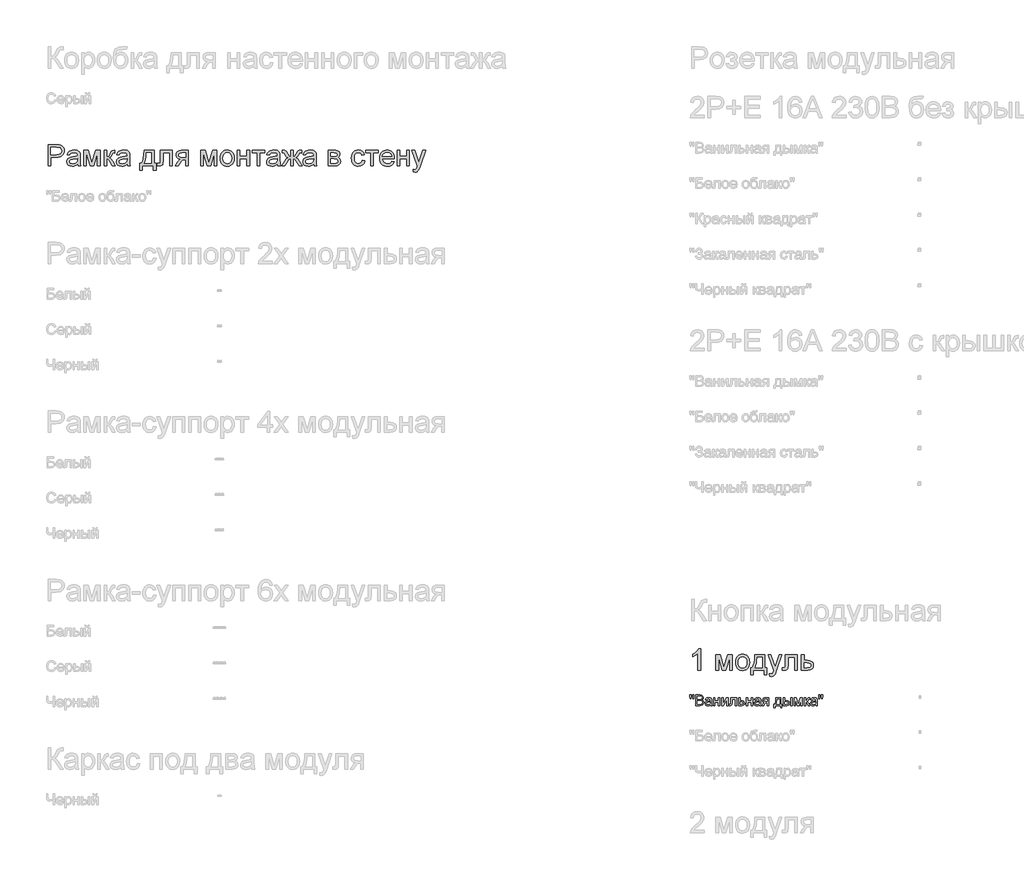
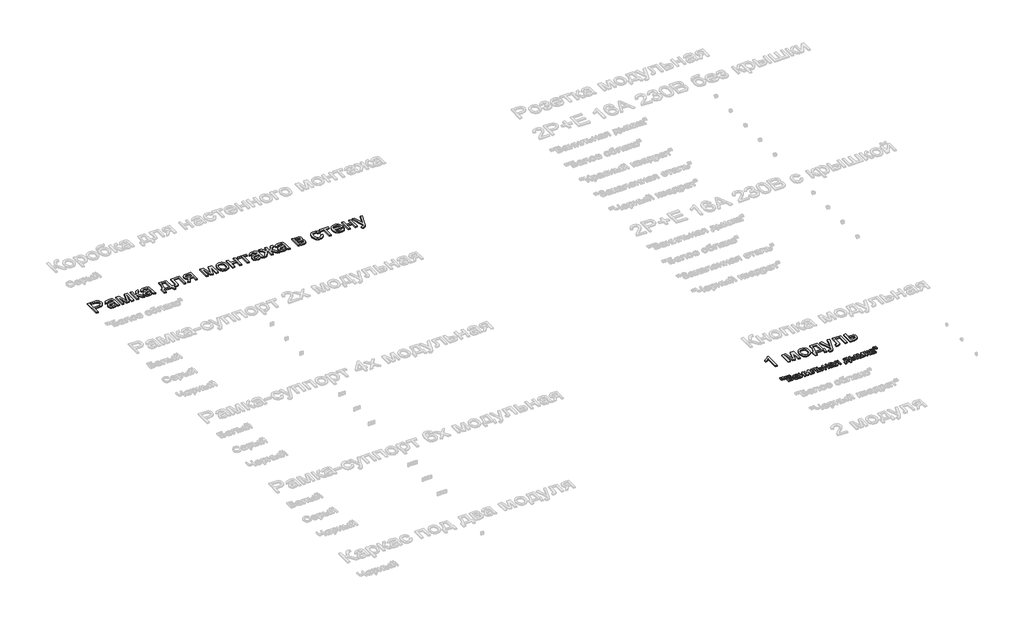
# One storey, part 45 of 168: 3 proxies.
"""IFC4 building model written with IfcOpenShell, lengths in millimetres."""

from ifc_helpers import new_model, si_unit, origin, origin_with_axes, place, context, project, spatial, polyline, outline, extrude, element, save

model = new_model("IFC4")

# Units and contexts
model_context = context("Model", 3, world=origin())
ifc_project = project(units=[si_unit("LENGTHUNIT", "METRE", prefix="MILLI")], contexts=[model_context])

# Site, building, storey
site = spatial("IfcSite", under=ifc_project)
building = spatial("IfcBuilding", under=site)
storey = spatial("IfcBuildingStorey", under=building, Name="Этаж 01", Elevation=0.0)

# Proxies
placement = place(None, origin())
element("IfcBuildingElementProxy", 1, Name="300 мм Arial 2", ObjectType="300 мм Arial 2", at=placement, inside=storey, context=model_context, shape_type="SweptSolid", body=[
    extrude(outline(polyline([(32899.0945017, -32350.0174816), (32899.0945017, -32048.6485512), (33010.7834754, -32048.6485512), (33055.8122316, -32051.5180308), (33075.8893915, -32056.8799108), (33092.4164901, -32065.6079112), (33105.7246213, -32078.0975049), (33116.1448788, -32094.7441652), (33122.8771193, -32114.3798667), (33125.1211995, -32135.8365841), (33123.6059855, -32154.3364499), (33119.0603436, -32171.3555907), (33111.4842738, -32186.8940065), (33100.877776, -32200.9516972), (33086.3165468, -32212.6043594), (33066.8762826, -32220.9276895), (33042.5569835, -32225.9216876), (33013.3586494, -32227.5863536), (32936.765618, -32227.5863536), (32936.765618, -32350.0174816), (32899.0945017, -32350.0174816)]), holes=[polyline([(32936.765618, -32189.9152373), (33015.5659413, -32189.9152373), (33048.9696265, -32186.4571466), (33071.0425462, -32176.0828743), (33083.3481989, -32159.436214), (33087.4500832, -32137.1609592), (33085.0312591, -32120.2383875), (33077.7747867, -32105.964566), (33066.581977, -32095.2224118), (33052.3541408, -32088.8948415), (33014.6830245, -32086.3196675), (32936.765618, -32086.3196675), (32936.765618, -32189.9152373)])]), origin_with_axes(), (0.0, 0.0, 1.0), 20.0),
    extrude(outline(polyline([(33313.476781, -32321.7641444), (33295.4781544, -32337.1967941), (33276.9460989, -32347.2951549), (33257.4575502, -32352.8685671), (33236.589444, -32354.7263712), (33205.1079423, -32350.2566049), (33181.8853914, -32336.8473062), (33167.5655847, -32316.4850378), (33162.7923158, -32291.1563624), (33164.5949376, -32275.5397717), (33170.0028029, -32261.3579208), (33178.3445271, -32249.217815), (33188.9487257, -32239.7264595), (33215.3258647, -32227.3656245), (33247.9202095, -32221.7002417), (33286.4374544, -32215.7405534), (33313.2560518, -32208.7507955), (33313.476781, -32200.363086), (33310.883213, -32183.5508788), (33303.1025088, -32172.5512072), (33285.7016904, -32164.3842269), (33261.4582669, -32161.6619001), (33239.0174652, -32163.4737189), (33223.3456922, -32168.9091754), (33212.6587202, -32178.9615509), (33205.1723216, -32194.6241269), (33167.5012053, -32189.9152373), (33174.0403078, -32169.3138456), (33183.7983777, -32153.1270378), (33197.685923, -32140.7478087), (33216.6134517, -32131.5691529), (33239.7624262, -32125.8853761), (33266.3143092, -32123.9907838), (33291.7809404, -32125.6646469), (33311.9684648, -32130.6862361), (33327.1895824, -32138.2370141), (33337.7569927, -32147.4984433), (33344.7651447, -32158.9487704), (33349.3084874, -32173.066242), (33351.1478973, -32206.0284687), (33351.1478973, -32252.8966349), (33353.0608837, -32318.3428419), (33360.5656764, -32350.0174816), (33322.8945601, -32350.0174816), (33313.476781, -32321.7641444)]), holes=[polyline([(33313.476781, -32246.4219118), (33252.7026754, -32257.9734064), (33220.2922716, -32264.0802476), (33205.61378, -32274.0130614), (33200.4634321, -32288.507612), (33203.2685323, -32299.7096188), (33211.683833, -32308.8882746), (33225.525393, -32315.0135098), (33244.6092715, -32317.0552549), (33264.8427813, -32314.8019777), (33282.7218462, -32308.042146), (33297.2163968, -32298.081741), (33307.2963635, -32286.2267437), (33311.7661297, -32274.0130614), (33313.2560518, -32257.0904897), (33313.476781, -32246.4219118)])]), origin_with_axes(), (0.0, 0.0, 1.0), 20.0),
    extrude(outline(polyline([(33402.9456823, -32128.6996733), (33467.7664898, -32128.6996733), (33517.7248647, -32305.8716422), (33571.5827888, -32128.6996733), (33633.6812696, -32128.6996733), (33633.6812696, -32350.0174816), (33596.0101533, -32350.0174816), (33596.0101533, -32171.8154432), (33541.8579236, -32350.0174816), (33492.4145835, -32350.0174816), (33440.6167986, -32163.2805809), (33440.6167986, -32350.0174816), (33402.9456823, -32350.0174816), (33402.9456823, -32128.6996733)])), origin_with_axes(), (0.0, 0.0, 1.0), 20.0),
    extrude(outline(polyline([(33690.1879441, -32128.6996733), (33727.8590604, -32128.6996733), (33727.8590604, -32222.8774641), (33743.1813455, -32221.1852069), (33753.0957653, -32216.1084354), (33761.8697508, -32202.8646836), (33773.7707334, -32176.6714855), (33790.9508226, -32142.642401), (33806.1075608, -32131.5691529), (33833.6619222, -32128.6996733), (33840.8724093, -32128.6996733), (33840.8724093, -32166.5915188), (33830.7188662, -32166.3707897), (33812.3247665, -32170.3439152), (33799.3753203, -32195.1391617), (33784.1817939, -32221.9577591), (33762.8814263, -32235.0911463), (33774.8191971, -32240.3932456), (33786.6466032, -32249.7512439), (33809.9703217, -32280.6349374), (33850.2901884, -32350.0174816), (33807.4687241, -32350.0174816), (33767.9581979, -32282.1064653), (33748.0925701, -32253.3748815), (33738.8035497, -32248.1601542), (33727.8590604, -32246.4219118), (33727.8590604, -32350.0174816), (33690.1879441, -32350.0174816), (33690.1879441, -32128.6996733)])), origin_with_axes(), (0.0, 0.0, 1.0), 20.0),
    extrude(outline(polyline([(34015.1013222, -32321.7641444), (33997.1026956, -32337.1967941), (33978.5706401, -32347.2951549), (33959.0820914, -32352.8685671), (33938.2139852, -32354.7263712), (33906.7324835, -32350.2566049), (33883.5099326, -32336.8473062), (33869.1901259, -32316.4850378), (33864.416857, -32291.1563624), (33866.2194788, -32275.5397717), (33871.6273441, -32261.3579208), (33879.9690683, -32249.217815), (33890.5732669, -32239.7264595), (33916.9504059, -32227.3656245), (33949.5447507, -32221.7002417), (33988.0619956, -32215.7405534), (34014.880593, -32208.7507955), (34015.1013222, -32200.363086), (34012.5077542, -32183.5508788), (34004.72705, -32172.5512072), (33987.3262316, -32164.3842269), (33963.0828081, -32161.6619001), (33940.6420064, -32163.4737189), (33924.9702334, -32168.9091754), (33914.2832614, -32178.9615509), (33906.7968628, -32194.6241269), (33869.1257465, -32189.9152373), (33875.664849, -32169.3138456), (33885.4229189, -32153.1270378), (33899.3104642, -32140.7478087), (33918.2379929, -32131.5691529), (33941.3869674, -32125.8853761), (33967.9388504, -32123.9907838), (33993.4054816, -32125.6646469), (34013.593006, -32130.6862361), (34028.8141236, -32138.2370141), (34039.3815339, -32147.4984433), (34046.3896859, -32158.9487704), (34050.9330286, -32173.066242), (34052.7724385, -32206.0284687), (34052.7724385, -32252.8966349), (34054.6854249, -32318.3428419), (34062.1902176, -32350.0174816), (34024.5191013, -32350.0174816), (34015.1013222, -32321.7641444)]), holes=[polyline([(34015.1013222, -32246.4219118), (33954.3272166, -32257.9734064), (33921.9168128, -32264.0802476), (33907.2383212, -32274.0130614), (33902.0879733, -32288.507612), (33904.8930735, -32299.7096188), (33913.3083742, -32308.8882746), (33927.1499342, -32315.0135098), (33946.2338127, -32317.0552549), (33966.4673225, -32314.8019777), (33984.3463874, -32308.042146), (33998.840938, -32298.081741), (34008.9209047, -32286.2267437), (34013.3906709, -32274.0130614), (34014.880593, -32257.0904897), (34015.1013222, -32246.4219118)])]), origin_with_axes(), (0.0, 0.0, 1.0), 20.0),
    extrude(outline(polyline([(34255.2546887, -32128.6996733), (34396.5213748, -32128.6996733), (34396.5213748, -32312.3463653), (34424.7747121, -32312.3463653), (34424.7747121, -32411.2330456), (34387.1035957, -32411.2330456), (34387.1035957, -32350.0174816), (34231.710241, -32350.0174816), (34231.710241, -32411.2330456), (34194.0391247, -32411.2330456), (34194.0391247, -32312.3463653), (34217.5835724, -32312.3463653), (34234.6992822, -32281.4166866), (34246.6830382, -32240.4990117), (34253.5348404, -32189.5933406), (34255.2546887, -32128.6996733)]), holes=[polyline([(34288.2169154, -32166.3707897), (34285.1267067, -32212.4939948), (34279.3877476, -32252.1976591), (34271.0000381, -32285.4817826), (34259.9635782, -32312.3463653), (34358.8502585, -32312.3463653), (34358.8502585, -32166.3707897), (34288.2169154, -32166.3707897)])]), origin_with_axes(), (0.0, 0.0, 1.0), 20.0),
    extrude(outline(polyline([(34485.9902761, -32128.6996733), (34655.5102994, -32128.6996733), (34655.5102994, -32349.7967524), (34617.8391831, -32349.7967524), (34617.8391831, -32166.3707897), (34523.6613924, -32166.3707897), (34523.6613924, -32271.9529223), (34521.1230066, -32320.6604984), (34516.3681318, -32331.6877612), (34507.180279, -32341.225102), (34493.2375514, -32347.8193867), (34474.2180522, -32350.0174816), (34443.6102702, -32348.1044953), (34443.6102702, -32312.3463653), (34460.4592656, -32312.3463653), (34477.492202, -32310.0287088), (34484.2980189, -32302.6710689), (34485.9902761, -32269.8192067), (34485.9902761, -32128.6996733)])), origin_with_axes(), (0.0, 0.0, 1.0), 20.0),
    extrude(outline(polyline([(34881.5369973, -32128.6996733), (34881.5369973, -32350.0174816), (34843.865881, -32350.0174816), (34843.865881, -32265.25747), (34823.3380656, -32265.25747), (34795.379034, -32270.0399359), (34784.2138154, -32280.4693905), (34769.1122595, -32302.1928223), (34739.0930887, -32350.0174816), (34695.5358605, -32350.0174816), (34733.3541296, -32289.5376816), (34750.0559722, -32267.8326439), (34765.4334396, -32258.1941356), (34739.6816999, -32250.3030669), (34721.5819058, -32235.3118755), (34710.8765397, -32215.3726714), (34707.3080844, -32192.6375641), (34712.1825208, -32166.8490362), (34726.8058301, -32146.4315855), (34750.6629775, -32133.1326514), (34783.2389282, -32128.6996733), (34881.5369973, -32128.6996733)]), holes=[polyline([(34843.865881, -32166.3707897), (34794.2018116, -32166.3707897), (34768.5512395, -32168.5504905), (34753.9923095, -32175.0895929), (34747.2324779, -32184.5533573), (34744.9792007, -32195.5070437), (34748.2993357, -32209.8636385), (34758.2597407, -32219.8240436), (34776.6630375, -32225.6457761), (34805.3118479, -32227.5863536), (34843.865881, -32227.5863536), (34843.865881, -32166.3707897)])]), origin_with_axes(), (0.0, 0.0, 1.0), 20.0),
    extrude(outline(polyline([(35055.7659102, -32128.6996733), (35120.5867177, -32128.6996733), (35170.5450927, -32305.8716422), (35224.4030168, -32128.6996733), (35286.5014976, -32128.6996733), (35286.5014976, -32350.0174816), (35248.8303813, -32350.0174816), (35248.8303813, -32171.8154432), (35194.6781516, -32350.0174816), (35145.2348114, -32350.0174816), (35093.4370265, -32163.2805809), (35093.4370265, -32350.0174816), (35055.7659102, -32350.0174816), (35055.7659102, -32128.6996733)])), origin_with_axes(), (0.0, 0.0, 1.0), 20.0),
    extrude(outline(polyline([(35333.5903929, -32239.3585775), (35335.6275395, -32210.6959715), (35341.7389791, -32185.9972941), (35351.9247119, -32165.2625451), (35366.1847377, -32148.4917247), (35380.5413326, -32137.7725631), (35396.3878495, -32130.116019), (35413.7242885, -32125.5220926), (35432.5506496, -32123.9907838), (35453.3336831, -32125.8554857), (35472.1255553, -32131.4495913), (35488.9262661, -32140.7731006), (35503.7358157, -32153.8260136), (35515.8230385, -32170.166872), (35524.4567691, -32189.3542173), (35529.6370074, -32211.3880495), (35531.3637535, -32236.2683687), (35528.310333, -32274.3257611), (35519.1500713, -32303.2964683), (35504.149683, -32324.9923089), (35483.5758824, -32341.225102), (35459.1393208, -32351.3510539), (35432.5506496, -32354.7263712), (35411.4641135, -32352.8685671), (35392.4974974, -32347.2951549), (35375.6508013, -32338.0061345), (35360.9240252, -32325.001506), (35348.9655611, -32308.5019985), (35340.423801, -32288.7283412), (35335.298745, -32265.6805342), (35333.5903929, -32239.3585775)]), holes=[polyline([(35371.2615092, -32239.2850011), (35375.6209109, -32273.378465), (35388.6991158, -32297.6678737), (35408.3808026, -32312.2084096), (35432.5506496, -32317.0552549), (35456.6101321, -32312.1808184), (35476.2550307, -32297.5575091), (35489.3332356, -32272.9462037), (35493.6926372, -32238.1077787), (35489.3056444, -32205.0075962), (35476.1446661, -32181.0492813), (35456.4721764, -32166.5087454), (35432.5506496, -32161.6619001), (35408.3808026, -32166.4903513), (35388.6991158, -32180.9757049), (35375.6209109, -32205.2099313), (35371.2615092, -32239.2850011)])]), origin_with_axes(), (0.0, 0.0, 1.0), 20.0),
    extrude(outline(polyline([(35573.7437594, -32128.6996733), (35611.4148757, -32128.6996733), (35611.4148757, -32213.459685), (35710.301556, -32213.459685), (35710.301556, -32128.6996733), (35747.9726723, -32128.6996733), (35747.9726723, -32350.0174816), (35710.301556, -32350.0174816), (35710.301556, -32251.1308013), (35611.4148757, -32251.1308013), (35611.4148757, -32350.0174816), (35573.7437594, -32350.0174816), (35573.7437594, -32128.6996733)])), origin_with_axes(), (0.0, 0.0, 1.0), 20.0),
    extrude(outline(polyline([(35785.6437886, -32128.6996733), (35964.5815911, -32128.6996733), (35964.5815911, -32166.3707897), (35893.948248, -32166.3707897), (35893.948248, -32350.0174816), (35856.2771317, -32350.0174816), (35856.2771317, -32166.3707897), (35785.6437886, -32166.3707897), (35785.6437886, -32128.6996733)])), origin_with_axes(), (0.0, 0.0, 1.0), 20.0),
    extrude(outline(polyline([(36138.810504, -32321.7641444), (36120.8118774, -32337.1967941), (36102.2798219, -32347.2951549), (36082.7912732, -32352.8685671), (36061.923167, -32354.7263712), (36030.4416653, -32350.2566049), (36007.2191143, -32336.8473062), (35992.8993076, -32316.4850378), (35988.1260388, -32291.1563624), (35989.9286605, -32275.5397717), (35995.3365259, -32261.3579208), (36003.6782501, -32249.217815), (36014.2824486, -32239.7264595), (36040.6595877, -32227.3656245), (36073.2539324, -32221.7002417), (36111.7711773, -32215.7405534), (36138.5897748, -32208.7507955), (36138.810504, -32200.363086), (36136.2169359, -32183.5508788), (36128.4362317, -32172.5512072), (36111.0354133, -32164.3842269), (36086.7919899, -32161.6619001), (36064.3511882, -32163.4737189), (36048.6794152, -32168.9091754), (36037.9924432, -32178.9615509), (36030.5060446, -32194.6241269), (35992.8349283, -32189.9152373), (35999.3740308, -32169.3138456), (36009.1321007, -32153.1270378), (36023.019646, -32140.7478087), (36041.9471747, -32131.5691529), (36065.0961492, -32125.8853761), (36091.6480322, -32123.9907838), (36117.1146633, -32125.6646469), (36137.3021878, -32130.6862361), (36152.5233054, -32138.2370141), (36163.0907157, -32147.4984433), (36170.0988677, -32158.9487704), (36174.6422103, -32173.066242), (36176.4816203, -32206.0284687), (36176.4816203, -32252.8966349), (36178.3946067, -32318.3428419), (36185.8993994, -32350.0174816), (36148.2282831, -32350.0174816), (36138.810504, -32321.7641444)]), holes=[polyline([(36138.810504, -32246.4219118), (36078.0363984, -32257.9734064), (36045.6259946, -32264.0802476), (36030.947503, -32274.0130614), (36025.7971551, -32288.507612), (36028.6022553, -32299.7096188), (36037.0175559, -32308.8882746), (36050.859116, -32315.0135098), (36069.9429945, -32317.0552549), (36090.1765042, -32314.8019777), (36108.0555692, -32308.042146), (36122.5501198, -32298.081741), (36132.6300865, -32286.2267437), (36137.0998527, -32274.0130614), (36138.5897748, -32257.0904897), (36138.810504, -32246.4219118)])]), origin_with_axes(), (0.0, 0.0, 1.0), 20.0),
    extrude(outline(polyline([(36364.8372018, -32128.6996733), (36364.8372018, -32222.8774641), (36378.1269389, -32220.9368866), (36386.7997569, -32215.115154), (36407.5850897, -32174.8320755), (36420.55293, -32149.7241294), (36432.3803361, -32136.204466), (36446.746128, -32130.5758715), (36467.6234313, -32128.6996733), (36482.5594403, -32128.6996733), (36482.5594403, -32166.5915188), (36472.185168, -32166.3707897), (36452.7609987, -32170.2703388), (36439.2965176, -32194.6977033), (36423.6615328, -32221.4795125), (36401.3310957, -32235.0911463), (36413.7241205, -32240.3932456), (36425.9607953, -32249.7512439), (36449.9650955, -32280.6349374), (36491.9772194, -32350.0174816), (36448.7878731, -32350.0174816), (36407.4379369, -32281.5914305), (36396.1347626, -32263.6295921), (36386.3582985, -32253.1541523), (36376.4714699, -32248.1049719), (36364.8372018, -32246.4219118), (36364.8372018, -32350.0174816), (36327.1660855, -32350.0174816), (36327.1660855, -32246.4219118), (36315.6237879, -32248.0681837), (36305.7185652, -32253.0069995), (36295.8685248, -32263.4088629), (36284.4917741, -32281.4442777), (36243.1418378, -32350.0174816), (36200.026068, -32350.0174816), (36241.891039, -32280.6349374), (36266.0792802, -32249.7512439), (36278.3803344, -32240.3932456), (36290.8193444, -32235.0911463), (36276.4351584, -32227.8806592), (36267.1277439, -32220.0815609), (36246.8206578, -32181.4539515), (36236.8878439, -32168.7252344), (36220.6274597, -32166.1500605), (36209.4438471, -32166.3707897), (36209.4438471, -32128.6996733), (36215.1092298, -32128.6996733), (36248.1450329, -32131.0541181), (36265.2883339, -32141.0605084), (36284.4917741, -32174.8320755), (36305.0563776, -32214.8576366), (36313.7291956, -32220.8725072), (36327.1660855, -32222.8774641), (36327.1660855, -32128.6996733), (36364.8372018, -32128.6996733)])), origin_with_axes(), (0.0, 0.0, 1.0), 20.0),
    extrude(outline(polyline([(36652.0794637, -32321.7641444), (36634.080837, -32337.1967941), (36615.5487815, -32347.2951549), (36596.0602328, -32352.8685671), (36575.1921267, -32354.7263712), (36543.7106249, -32350.2566049), (36520.488074, -32336.8473062), (36506.1682673, -32316.4850378), (36501.3949984, -32291.1563624), (36503.1976202, -32275.5397717), (36508.6054855, -32261.3579208), (36516.9472098, -32249.217815), (36527.5514083, -32239.7264595), (36553.9285473, -32227.3656245), (36586.5228921, -32221.7002417), (36625.040137, -32215.7405534), (36651.8587345, -32208.7507955), (36652.0794637, -32200.363086), (36649.4858956, -32183.5508788), (36641.7051914, -32172.5512072), (36624.304373, -32164.3842269), (36600.0609495, -32161.6619001), (36577.6201478, -32163.4737189), (36561.9483748, -32168.9091754), (36551.2614029, -32178.9615509), (36543.7750043, -32194.6241269), (36506.103888, -32189.9152373), (36512.6429904, -32169.3138456), (36522.4010604, -32153.1270378), (36536.2886057, -32140.7478087), (36555.2161343, -32131.5691529), (36578.3651089, -32125.8853761), (36604.9169919, -32123.9907838), (36630.383623, -32125.6646469), (36650.5711475, -32130.6862361), (36665.792265, -32138.2370141), (36676.3596753, -32147.4984433), (36683.3678273, -32158.9487704), (36687.91117, -32173.066242), (36689.75058, -32206.0284687), (36689.75058, -32252.8966349), (36691.6635663, -32318.3428419), (36699.168359, -32350.0174816), (36661.4972427, -32350.0174816), (36652.0794637, -32321.7641444)]), holes=[polyline([(36652.0794637, -32246.4219118), (36591.3053581, -32257.9734064), (36558.8949543, -32264.0802476), (36544.2164627, -32274.0130614), (36539.0661147, -32288.507612), (36541.8712149, -32299.7096188), (36550.2865156, -32308.8882746), (36564.1280757, -32315.0135098), (36583.2119542, -32317.0552549), (36603.4454639, -32314.8019777), (36621.3245289, -32308.042146), (36635.8190795, -32298.081741), (36645.8990461, -32286.2267437), (36650.3688124, -32274.0130614), (36651.8587345, -32257.0904897), (36652.0794637, -32246.4219118)])]), origin_with_axes(), (0.0, 0.0, 1.0), 20.0),
    extrude(outline(polyline([(36859.2706033, -32128.6996733), (36942.2647814, -32128.6996733), (36968.9454231, -32129.9596692), (36987.7717843, -32133.7396567), (37001.6225414, -32140.8765674), (37013.3763711, -32152.2073328), (37021.4053957, -32166.9685979), (37024.0817372, -32184.3970074), (37022.4630564, -32198.4409026), (37017.6070141, -32210.5534173), (37009.4952161, -32220.7897338), (36998.1092683, -32229.2050344), (37012.0519959, -32237.0317239), (37023.4195496, -32249.6224852), (37030.9795246, -32265.9840369), (37033.4995163, -32285.1230977), (37027.1167636, -32313.8362874), (37011.9416313, -32334.0514031), (36987.9189371, -32346.025962), (36954.9934985, -32350.0174816), (36859.2706033, -32350.0174816), (36859.2706033, -32128.6996733)]), holes=[polyline([(36896.9417196, -32213.459685), (36934.1713776, -32213.459685), (36964.8895242, -32211.5466987), (36979.8255332, -32203.8947532), (36984.7643489, -32197.5671828), (36986.4106209, -32190.0623901), (36983.5227472, -32178.8235952), (36974.8591262, -32171.594714), (36959.2057473, -32167.6767707), (36935.3485999, -32166.3707897), (36896.9417196, -32166.3707897), (36896.9417196, -32213.459685)]), polyline([(36896.9417196, -32312.3463653), (36943.1476982, -32312.3463653), (36968.3292208, -32310.6449111), (36984.1297525, -32305.5405484), (36992.6094325, -32296.2607251), (36995.8283999, -32282.0328889), (36994.2189162, -32272.6059128), (36989.390465, -32263.8963066), (36981.9776428, -32257.0812926), (36972.6150461, -32253.3380933), (36939.4688783, -32251.1308013), (36896.9417196, -32251.1308013), (36896.9417196, -32312.3463653)])]), origin_with_axes(), (0.0, 0.0, 1.0), 20.0),
    extrude(outline(polyline([(37339.5773362, -32269.9663595), (37377.2484525, -32274.675249), (37366.7454216, -32308.1801017), (37347.0085525, -32333.4995801), (37319.8956495, -32349.4196734), (37287.2645165, -32354.7263712), (37266.1365937, -32352.8754649), (37247.1929702, -32347.322746), (37230.4336461, -32338.0682146), (37215.8586213, -32325.1118706), (37204.0611055, -32308.6974358), (37195.6343086, -32289.0686321), (37190.5782304, -32266.2254595), (37188.892871, -32240.1679179), (37191.7715476, -32206.6446711), (37200.4075775, -32177.5911905), (37214.9389163, -32154.1295163), (37235.5035198, -32137.3816884), (37260.1056282, -32127.33851), (37286.7494817, -32123.9907838), (37318.5804714, -32128.5893087), (37344.0287084, -32142.3848836), (37362.2848524, -32164.6417443), (37372.539563, -32194.6241269), (37334.8684467, -32199.3330164), (37328.0350386, -32182.8978883), (37317.3940519, -32171.1164674), (37303.5340978, -32164.0255419), (37287.0437873, -32161.6619001), (37262.6991963, -32166.3156074), (37243.3761945, -32180.2767291), (37230.7670391, -32204.2994234), (37226.5639873, -32239.1378483), (37230.6750686, -32274.4453228), (37243.0083125, -32298.5507905), (37261.9818264, -32312.4291388), (37286.0137177, -32317.0552549), (37305.5206605, -32314.1673812), (37321.5143303, -32305.5037602), (37333.1485984, -32290.8436627), (37339.5773362, -32269.9663595)])), origin_with_axes(), (0.0, 0.0, 1.0), 20.0),
    extrude(outline(polyline([(37391.3751212, -32128.6996733), (37570.3129236, -32128.6996733), (37570.3129236, -32166.3707897), (37499.6795805, -32166.3707897), (37499.6795805, -32350.0174816), (37462.0084642, -32350.0174816), (37462.0084642, -32166.3707897), (37391.3751212, -32166.3707897), (37391.3751212, -32128.6996733)])), origin_with_axes(), (0.0, 0.0, 1.0), 20.0),
    extrude(outline(polyline([(37758.2270468, -32284.0930281), (37795.1623991, -32288.8019176), (37781.8542679, -32316.6321906), (37760.6182797, -32337.4359174), (37731.9326811, -32350.4037577), (37696.2757188, -32354.7263712), (37672.9014165, -32352.8616693), (37652.074697, -32347.2675637), (37633.7955604, -32337.9440544), (37618.0640066, -32324.8911414), (37605.4134645, -32308.4721081), (37596.377363, -32289.050238), (37590.9557021, -32266.6255311), (37589.1484818, -32241.1979875), (37590.9740962, -32214.9082204), (37596.4509394, -32191.7362532), (37605.5790114, -32171.682086), (37618.3583122, -32154.7457186), (37634.0484793, -32141.2904346), (37651.9091501, -32131.6795175), (37671.9403248, -32125.9129672), (37694.1420032, -32123.9907838), (37715.628611, -32125.9083687), (37735.0596781, -32131.6611234), (37752.4352046, -32141.2490479), (37767.7551904, -32154.6721422), (37780.260879, -32171.5717214), (37789.1935137, -32191.5891004), (37794.5530945, -32214.7242794), (37796.3396215, -32240.9772583), (37796.1188923, -32251.1308013), (37626.8195981, -32251.1308013), (37633.3403064, -32279.3289563), (37648.4878476, -32300.0591067), (37670.3492352, -32312.8062178), (37697.0114828, -32317.0552549), (37717.0610515, -32315.0870862), (37733.9468351, -32309.1825802), (37747.6688335, -32298.9738548), (37758.2270468, -32284.0930281)]), holes=[polyline([(37626.8195981, -32213.459685), (37758.6685051, -32213.459685), (37753.5733395, -32193.5572691), (37743.5853433, -32179.3202359), (37721.6227882, -32166.0764841), (37693.9948504, -32161.6619001), (37668.6017957, -32165.1843702), (37647.6049308, -32175.7517805), (37633.0092126, -32192.2236969), (37626.8195981, -32213.459685)])]), origin_with_axes(), (0.0, 0.0, 1.0), 20.0),
    extrude(outline(polyline([(37834.0107378, -32128.6996733), (37871.6818541, -32128.6996733), (37871.6818541, -32213.459685), (37970.5685344, -32213.459685), (37970.5685344, -32128.6996733), (38008.2396507, -32128.6996733), (38008.2396507, -32350.0174816), (37970.5685344, -32350.0174816), (37970.5685344, -32251.1308013), (37871.6818541, -32251.1308013), (37871.6818541, -32350.0174816), (37834.0107378, -32350.0174816), (37834.0107378, -32128.6996733)])), origin_with_axes(), (0.0, 0.0, 1.0), 20.0),
    extrude(outline(polyline([(38064.7463251, -32434.7774933), (38060.0374356, -32398.5043286), (38079.1672993, -32401.8152666), (38097.0463643, -32397.6582), (38108.0092478, -32386.0699172), (38118.3099436, -32358.3316147), (38121.2529996, -32349.2081413), (38041.2018774, -32128.6996733), (38080.9331329, -32128.6996733), (38123.3867152, -32251.5722597), (38138.1755714, -32300.7212943), (38152.9644276, -32257.3112189), (38196.5952322, -32128.6996733), (38236.0321821, -32128.6996733), (38158.9976923, -32355.3149824), (38138.9849118, -32404.4640169), (38128.7393982, -32420.154184), (38117.1327212, -32431.025097), (38103.6498461, -32437.3710614), (38087.775738, -32439.4863829), (38064.7463251, -32434.7774933)])), origin_with_axes(), (0.0, 0.0, 1.0), 20.0),
])
element("IfcBuildingElementProxy", 2, Name="300 мм Arial 2", ObjectType="300 мм Arial 2", at=placement, inside=storey, context=model_context, shape_type="SweptSolid", body=[
    extrude(outline(polyline([(42126.2345192, -39482.6382173), (42088.5634029, -39482.6382173), (42088.5634029, -39247.7823516), (42052.8788494, -39273.2029974), (42013.2211703, -39292.2224966), (42013.2211703, -39256.6115194), (42042.8080797, -39240.5166822), (42068.4402577, -39221.3684243), (42088.6461763, -39201.0061559), (42101.9543075, -39181.2692868), (42126.2345192, -39181.2692868), (42126.2345192, -39482.6382173)])), origin_with_axes(), (0.0, 0.0, 1.0), 20.0),
    extrude(outline(polyline([(42342.843438, -39261.320409), (42407.6642455, -39261.320409), (42457.6226204, -39438.4923779), (42511.4805445, -39261.320409), (42573.5790253, -39261.320409), (42573.5790253, -39482.6382173), (42535.907909, -39482.6382173), (42535.907909, -39304.4361788), (42481.7556793, -39482.6382173), (42432.3123392, -39482.6382173), (42380.5145543, -39295.9013165), (42380.5145543, -39482.6382173), (42342.843438, -39482.6382173), (42342.843438, -39261.320409)])), origin_with_axes(), (0.0, 0.0, 1.0), 20.0),
    extrude(outline(polyline([(42620.6679207, -39371.9793131), (42622.7050673, -39343.3167072), (42628.8165069, -39318.6180297), (42639.0022396, -39297.8832808), (42653.2622655, -39281.1124603), (42667.6188603, -39270.3932987), (42683.4653773, -39262.7367547), (42700.8018163, -39258.1428282), (42719.6281774, -39256.6115194), (42740.4112109, -39258.4762213), (42759.203083, -39264.0703269), (42776.0037939, -39273.3938362), (42790.8133435, -39286.4467493), (42802.9005663, -39302.7876076), (42811.5342969, -39321.9749529), (42816.7145352, -39344.0087852), (42818.4412813, -39368.8891044), (42815.3878608, -39406.9464968), (42806.2275991, -39435.9172039), (42791.2272107, -39457.6130446), (42770.6534101, -39473.8458376), (42746.2168486, -39483.9717895), (42719.6281774, -39487.3471068), (42698.5416413, -39485.4893027), (42679.5750252, -39479.9158905), (42662.7283291, -39470.6268701), (42648.001553, -39457.6222416), (42636.0430888, -39441.1227341), (42627.5013288, -39421.3490769), (42622.3762727, -39398.3012699), (42620.6679207, -39371.9793131)]), holes=[polyline([(42658.339037, -39371.9057367), (42662.6984387, -39405.9992006), (42675.7766436, -39430.2886094), (42695.4583303, -39444.8291452), (42719.6281774, -39449.6759905), (42743.6876599, -39444.8015541), (42763.3325584, -39430.1782448), (42776.4107634, -39405.5669393), (42780.770165, -39370.7285143), (42776.3831722, -39337.6283318), (42763.2221938, -39313.6700169), (42743.5497041, -39299.129481), (42719.6281774, -39294.2826358), (42695.4583303, -39299.1110869), (42675.7766436, -39313.5964405), (42662.6984387, -39337.8306669), (42658.339037, -39371.9057367)])]), origin_with_axes(), (0.0, 0.0, 1.0), 20.0),
    extrude(outline(polyline([(42893.7835139, -39261.320409), (43035.0502001, -39261.320409), (43035.0502001, -39444.967101), (43063.3035373, -39444.967101), (43063.3035373, -39543.8537813), (43025.632421, -39543.8537813), (43025.632421, -39482.6382173), (42870.2390662, -39482.6382173), (42870.2390662, -39543.8537813), (42832.5679499, -39543.8537813), (42832.5679499, -39444.967101), (42856.1123976, -39444.967101), (42873.2281074, -39414.0374222), (42885.2118634, -39373.1197473), (42892.0636656, -39322.2140762), (42893.7835139, -39261.320409)]), holes=[polyline([(42926.7457407, -39298.9915253), (42923.6555319, -39345.1147304), (42917.9165728, -39384.8183948), (42909.5288633, -39418.1025183), (42898.4924035, -39444.967101), (42997.3790838, -39444.967101), (42997.3790838, -39298.9915253), (42926.7457407, -39298.9915253)])]), origin_with_axes(), (0.0, 0.0, 1.0), 20.0),
    extrude(outline(polyline([(43105.6835431, -39567.398229), (43100.9746536, -39531.1250642), (43120.1045174, -39534.4360022), (43137.9835823, -39530.2789357), (43148.9464658, -39518.6906528), (43159.2471616, -39490.9523504), (43162.1902176, -39481.8288769), (43082.1390955, -39261.320409), (43121.8703509, -39261.320409), (43164.3239332, -39384.1929954), (43179.1127894, -39433.3420299), (43193.9016456, -39389.9319545), (43237.5324502, -39261.320409), (43276.9694001, -39261.320409), (43199.9349103, -39487.935718), (43179.9221298, -39537.0847526), (43169.6766162, -39552.7749197), (43158.0699393, -39563.6458326), (43144.5870641, -39569.991797), (43128.712956, -39572.1071185), (43105.6835431, -39567.398229)])), origin_with_axes(), (0.0, 0.0, 1.0), 20.0),
    extrude(outline(polyline([(43327.0013514, -39261.320409), (43496.5213748, -39261.320409), (43496.5213748, -39482.4174881), (43458.8502585, -39482.4174881), (43458.8502585, -39298.9915253), (43364.6724678, -39298.9915253), (43364.6724678, -39404.5736579), (43362.134082, -39453.2812341), (43357.3792072, -39464.3084969), (43348.1913544, -39473.8458376), (43334.2486268, -39480.4401224), (43315.2291276, -39482.6382173), (43284.6213456, -39480.7252309), (43284.6213456, -39444.967101), (43301.470341, -39444.967101), (43318.5032774, -39442.6494444), (43325.3090943, -39435.2918045), (43327.0013514, -39402.4399423), (43327.0013514, -39261.320409)])), origin_with_axes(), (0.0, 0.0, 1.0), 20.0),
    extrude(outline(polyline([(43553.0280493, -39261.320409), (43590.6991656, -39261.320409), (43590.6991656, -39341.3715311), (43634.109241, -39341.3715311), (43671.7435691, -39346.0896177), (43686.8911103, -39351.987226), (43699.5922362, -39360.2438775), (43709.6354146, -39370.5744638), (43716.8091135, -39382.6938762), (43722.5480727, -39412.2991798), (43717.6644392, -39439.255733), (43703.0135387, -39462.0000374), (43691.7816416, -39471.0292411), (43677.620484, -39477.4786723), (43640.5103877, -39482.6382173), (43553.0280493, -39482.6382173), (43553.0280493, -39261.320409)]), holes=[polyline([(43590.6991656, -39444.967101), (43625.8686843, -39444.967101), (43653.1563313, -39442.9897353), (43671.3021107, -39437.0576381), (43681.483245, -39426.9316862), (43684.8769564, -39412.3727562), (43682.3661617, -39400.0671035), (43674.8337779, -39389.1961905), (43658.6929553, -39381.5810332), (43630.3568447, -39379.0426474), (43590.6991656, -39379.0426474), (43590.6991656, -39444.967101)])]), origin_with_axes(), (0.0, 0.0, 1.0), 20.0),
])
element("IfcBuildingElementProxy", 3, Name="150", ObjectType="150", at=placement, inside=storey, context=model_context, shape_type="SweptSolid", body=[
    extrude(outline(polyline([(41980.1485789, -39886.1059817), (41975.550054, -39857.0065159), (41975.550054, -39831.9537521), (41994.3856121, -39831.9537521), (41994.3856121, -39857.0065159), (41990.2653338, -39886.1059817), (41980.1485789, -39886.1059817)])), origin_with_axes(), (0.0, 0.0, 1.0), 20.0),
    extrude(outline(polyline([(42017.7093306, -39886.1059817), (42013.2211703, -39857.0065159), (42013.2211703, -39831.9537521), (42032.0567284, -39831.9537521), (42032.0567284, -39857.0065159), (42027.6421445, -39886.1059817), (42017.7093306, -39886.1059817)])), origin_with_axes(), (0.0, 0.0, 1.0), 20.0),
    extrude(outline(polyline([(42057.9556209, -39982.6382173), (42057.9556209, -39831.9537521), (42115.4555767, -39831.9537521), (42143.6169435, -39836.3867301), (42153.0807078, -39842.0107261), (42160.2452096, -39850.016758), (42166.2600803, -39869.2937746), (42161.2017028, -39886.896928), (42145.9162059, -39900.2326504), (42156.5893823, -39905.8060626), (42164.4758526, -39914.2857426), (42169.3456905, -39925.1106703), (42170.9689698, -39937.7198257), (42166.5359918, -39957.9717295), (42155.5547142, -39972.3927037), (42139.1655713, -39980.0446492), (42115.0141183, -39982.6382173), (42057.9556209, -39982.6382173)]), holes=[polyline([(42076.791179, -39893.1693161), (42111.1881456, -39893.1693161), (42131.2745025, -39891.5506353), (42143.3594261, -39884.5792715), (42147.4245221, -39872.3104069), (42143.6353376, -39860.0231483), (42132.7828187, -39852.7574789), (42108.5761834, -39850.7893102), (42076.791179, -39850.7893102), (42076.791179, -39893.1693161)]), polyline([(42076.791179, -39963.8026591), (42115.4187885, -39963.8026591), (42129.3983043, -39963.0668951), (42141.2257105, -39958.9650109), (42149.061597, -39950.5956955), (42152.1334117, -39937.9037667), (42148.5281681, -39923.2620633), (42136.8479148, -39914.5248659), (42113.5793786, -39912.0048742), (42076.791179, -39912.0048742), (42076.791179, -39963.8026591)])]), origin_with_axes(), (0.0, 0.0, 1.0), 20.0),
    extrude(outline(polyline([(42265.1467606, -39968.5115487), (42246.8814195, -39981.2770539), (42226.7030921, -39984.992662), (42210.9623412, -39982.7577789), (42199.3510657, -39976.0531296), (42192.1911624, -39965.8719954), (42189.804528, -39953.2076577), (42193.4097715, -39938.3084369), (42202.8827329, -39927.4927062), (42216.0713024, -39921.3122887), (42232.3684748, -39918.4795973), (42265.036396, -39912.0048742), (42265.1467606, -39907.8110195), (42263.8499765, -39899.4049159), (42259.9596244, -39893.90508), (42251.2592153, -39889.8215899), (42239.1375035, -39888.4604265), (42220.0812162, -39892.0840642), (42210.9945309, -39904.9415399), (42192.1589727, -39902.5870951), (42200.3075589, -39884.1929954), (42216.7150959, -39873.4140529), (42241.5655247, -39869.6248684), (42264.3926025, -39872.9725945), (42277.2868664, -39881.3786981), (42283.0626137, -39894.1625974), (42283.9823187, -39910.6437108), (42283.9823187, -39934.0777939), (42284.9388119, -39966.8008974), (42288.6912083, -39982.6382173), (42269.8556501, -39982.6382173), (42265.1467606, -39968.5115487)]), holes=[polyline([(42265.1467606, -39930.8404324), (42234.7597078, -39936.6161797), (42218.5545059, -39939.6696002), (42211.2152601, -39944.6360072), (42208.6400861, -39951.8832825), (42214.2502865, -39962.0736138), (42230.7130058, -39966.1571039), (42249.7692932, -39961.6505495), (42262.0565518, -39950.7428483), (42265.036396, -39936.1747213), (42265.1467606, -39930.8404324)])]), origin_with_axes(), (0.0, 0.0, 1.0), 20.0),
    extrude(outline(polyline([(42309.8812112, -39871.9793131), (42328.7167693, -39871.9793131), (42328.7167693, -39914.359319), (42378.1601095, -39914.359319), (42378.1601095, -39871.9793131), (42396.9956676, -39871.9793131), (42396.9956676, -39982.6382173), (42378.1601095, -39982.6382173), (42378.1601095, -39933.1948771), (42328.7167693, -39933.1948771), (42328.7167693, -39982.6382173), (42309.8812112, -39982.6382173), (42309.8812112, -39871.9793131)])), origin_with_axes(), (0.0, 0.0, 1.0), 20.0),
    extrude(outline(polyline([(42425.2490049, -39871.9793131), (42444.084563, -39871.9793131), (42444.084563, -39956.3714428), (42490.364118, -39871.9793131), (42514.7179061, -39871.9793131), (42514.7179061, -39982.6382173), (42495.8823479, -39982.6382173), (42495.8823479, -39898.7611224), (42449.8970985, -39982.6382173), (42425.2490049, -39982.6382173), (42425.2490049, -39871.9793131)])), origin_with_axes(), (0.0, 0.0, 1.0), 20.0),
    extrude(outline(polyline([(42552.3890224, -39871.9793131), (42637.1490341, -39871.9793131), (42637.1490341, -39982.5278527), (42618.3134759, -39982.5278527), (42618.3134759, -39890.8148713), (42571.2245806, -39890.8148713), (42571.2245806, -39943.6059376), (42569.9553877, -39967.9597257), (42562.9840239, -39978.2420274), (42546.5029105, -39982.6382173), (42531.1990195, -39981.6817241), (42531.1990195, -39963.8026591), (42539.6235172, -39963.8026591), (42548.1399854, -39962.6438308), (42551.5428938, -39958.9650109), (42552.3890224, -39942.5390798), (42552.3890224, -39871.9793131)])), origin_with_axes(), (0.0, 0.0, 1.0), 20.0),
    extrude(outline(polyline([(42665.4023713, -39871.9793131), (42684.2379295, -39871.9793131), (42684.2379295, -39912.0048742), (42705.9429672, -39912.0048742), (42724.7601312, -39914.3639175), (42738.6844648, -39921.4410474), (42747.2929034, -39932.6660468), (42750.162383, -39947.4686985), (42747.7205663, -39960.9469751), (42740.395116, -39972.3191273), (42727.6985887, -39980.0584448), (42709.1435405, -39982.6382173), (42665.4023713, -39982.6382173), (42665.4023713, -39871.9793131)]), holes=[polyline([(42684.2379295, -39963.8026591), (42701.8226888, -39963.8026591), (42724.539402, -39959.8479277), (42729.6299692, -39954.7849517), (42731.3268249, -39947.5054867), (42726.3052356, -39935.9172039), (42718.2348244, -39932.1096252), (42704.066769, -39930.8404324), (42684.2379295, -39930.8404324), (42684.2379295, -39963.8026591)])]), origin_with_axes(), (0.0, 0.0, 1.0), 20.0),
    extrude(outline(polyline([(42773.7068307, -39871.9793131), (42792.5423889, -39871.9793131), (42792.5423889, -39914.359319), (42841.985729, -39914.359319), (42841.985729, -39871.9793131), (42860.8212872, -39871.9793131), (42860.8212872, -39982.6382173), (42841.985729, -39982.6382173), (42841.985729, -39933.1948771), (42792.5423889, -39933.1948771), (42792.5423889, -39982.6382173), (42773.7068307, -39982.6382173), (42773.7068307, -39871.9793131)])), origin_with_axes(), (0.0, 0.0, 1.0), 20.0),
    extrude(outline(polyline([(42959.7079675, -39968.5115487), (42941.4426264, -39981.2770539), (42921.264299, -39984.992662), (42905.5235481, -39982.7577789), (42893.9122726, -39976.0531296), (42886.7523693, -39965.8719954), (42884.3657349, -39953.2076577), (42887.9709784, -39938.3084369), (42897.4439398, -39927.4927062), (42910.6325093, -39921.3122887), (42926.9296817, -39918.4795973), (42959.5976029, -39912.0048742), (42959.7079675, -39907.8110195), (42958.4111834, -39899.4049159), (42954.5208313, -39893.90508), (42945.8204221, -39889.8215899), (42933.6987104, -39888.4604265), (42914.6424231, -39892.0840642), (42905.5557378, -39904.9415399), (42886.7201796, -39902.5870951), (42894.8687658, -39884.1929954), (42911.2763028, -39873.4140529), (42936.1267316, -39869.6248684), (42958.9538094, -39872.9725945), (42971.8480733, -39881.3786981), (42977.6238206, -39894.1625974), (42978.5435256, -39910.6437108), (42978.5435256, -39934.0777939), (42979.5000188, -39966.8008974), (42983.2524152, -39982.6382173), (42964.416857, -39982.6382173), (42959.7079675, -39968.5115487)]), holes=[polyline([(42959.7079675, -39930.8404324), (42929.3209147, -39936.6161797), (42913.1157128, -39939.6696002), (42905.776467, -39944.6360072), (42903.201293, -39951.8832825), (42908.8114934, -39962.0736138), (42925.2742127, -39966.1571039), (42944.3305001, -39961.6505495), (42956.6177587, -39950.7428483), (42959.5976029, -39936.1747213), (42959.7079675, -39930.8404324)])]), origin_with_axes(), (0.0, 0.0, 1.0), 20.0),
    extrude(outline(polyline([(43089.2024298, -39871.9793131), (43089.2024298, -39982.6382173), (43070.3668716, -39982.6382173), (43070.3668716, -39940.2582114), (43060.1029639, -39940.2582114), (43046.1234481, -39942.6494444), (43032.9900609, -39958.7258876), (43017.9804755, -39982.6382173), (42996.2018614, -39982.6382173), (43015.1109959, -39952.3983173), (43023.4619172, -39941.5457984), (43031.1506509, -39936.7265443), (43018.2747811, -39932.7810099), (43009.224884, -39925.2854142), (43003.872201, -39915.3158122), (43002.0879733, -39903.9482585), (43004.5251915, -39891.0539946), (43011.8368462, -39880.8452692), (43023.7654199, -39874.1958022), (43040.0533952, -39871.9793131), (43089.2024298, -39871.9793131)]), holes=[polyline([(43070.3668716, -39890.8148713), (43045.5348369, -39890.8148713), (43032.7095509, -39891.9047217), (43025.4300859, -39895.1742729), (43020.9235315, -39905.3829983), (43022.583599, -39912.5612957), (43027.5638015, -39917.5414982), (43051.0898551, -39921.4226533), (43070.3668716, -39921.4226533), (43070.3668716, -39890.8148713)])]), origin_with_axes(), (0.0, 0.0, 1.0), 20.0),
    extrude(outline(polyline([(43192.7979996, -39871.9793131), (43263.4313427, -39871.9793131), (43263.4313427, -39963.8026591), (43277.5580113, -39963.8026591), (43277.5580113, -40013.2459993), (43258.7224531, -40013.2459993), (43258.7224531, -39982.6382173), (43181.0257758, -39982.6382173), (43181.0257758, -40013.2459993), (43162.1902176, -40013.2459993), (43162.1902176, -39963.8026591), (43173.9624415, -39963.8026591), (43182.5202964, -39948.3378198), (43188.5121744, -39927.8789823), (43192.7979996, -39871.9793131)]), holes=[polyline([(43209.279113, -39890.8148713), (43204.864529, -39933.728306), (43195.1524444, -39963.8026591), (43244.5957845, -39963.8026591), (43244.5957845, -39890.8148713), (43209.279113, -39890.8148713)])]), origin_with_axes(), (0.0, 0.0, 1.0), 20.0),
    extrude(outline(polyline([(43402.3435841, -39871.9793131), (43421.1791422, -39871.9793131), (43421.1791422, -39982.6382173), (43402.3435841, -39982.6382173), (43402.3435841, -39871.9793131)])), origin_with_axes(), (0.0, 0.0, 1.0), 20.0),
    extrude(outline(polyline([(43298.7480142, -39871.9793131), (43317.5835724, -39871.9793131), (43317.5835724, -39912.0048742), (43340.8705027, -39912.0048742), (43360.9982463, -39914.3639175), (43375.9112627, -39921.4410474), (43385.1405023, -39932.6660468), (43388.2169154, -39947.4686985), (43385.637143, -39960.9469751), (43377.8978255, -39972.3191273), (43364.4931253, -39980.0584448), (43344.9172046, -39982.6382173), (43298.7480142, -39982.6382173), (43298.7480142, -39871.9793131)]), holes=[polyline([(43317.5835724, -39963.8026591), (43336.9341653, -39963.8026591), (43361.9133528, -39959.8479277), (43367.5143562, -39954.7849517), (43369.3813573, -39947.5054867), (43363.8447333, -39935.9172039), (43354.9649816, -39932.1096252), (43339.3989747, -39930.8404324), (43317.5835724, -39930.8404324), (43317.5835724, -39963.8026591)])]), origin_with_axes(), (0.0, 0.0, 1.0), 20.0),
    extrude(outline(polyline([(43449.4324794, -39871.9793131), (43481.8428832, -39871.9793131), (43506.8220707, -39960.5652976), (43533.7510327, -39871.9793131), (43564.8002731, -39871.9793131), (43564.8002731, -39982.6382173), (43545.964715, -39982.6382173), (43545.964715, -39893.537198), (43518.8886001, -39982.6382173), (43494.1669301, -39982.6382173), (43468.2680376, -39889.2697669), (43468.2680376, -39982.6382173), (43449.4324794, -39982.6382173), (43449.4324794, -39871.9793131)])), origin_with_axes(), (0.0, 0.0, 1.0), 20.0),
    extrude(outline(polyline([(43593.0536104, -39871.9793131), (43611.8891685, -39871.9793131), (43611.8891685, -39919.0682085), (43624.5075209, -39915.6836942), (43634.845005, -39895.9652192), (43643.4350496, -39878.9506769), (43651.0134187, -39873.4140529), (43664.7905994, -39871.9793131), (43668.395843, -39871.9793131), (43668.395843, -39890.9252359), (43663.3190714, -39890.8148713), (43654.1220216, -39892.8014341), (43647.6472984, -39905.1990573), (43640.0505352, -39918.608356), (43629.4003515, -39925.1750496), (43641.2829399, -39932.5050984), (43652.9447992, -39947.9469451), (43673.1047325, -39982.6382173), (43651.6940004, -39982.6382173), (43631.9387372, -39948.6827091), (43622.0059234, -39934.3169172), (43611.8891685, -39930.8404324), (43611.8891685, -39982.6382173), (43593.0536104, -39982.6382173), (43593.0536104, -39871.9793131)])), origin_with_axes(), (0.0, 0.0, 1.0), 20.0),
    extrude(outline(polyline([(43755.5102994, -39968.5115487), (43737.2449584, -39981.2770539), (43717.0666309, -39984.992662), (43701.3258801, -39982.7577789), (43689.7146046, -39976.0531296), (43682.5547013, -39965.8719954), (43680.1680668, -39953.2076577), (43683.7733104, -39938.3084369), (43693.2462717, -39927.4927062), (43706.4348413, -39921.3122887), (43722.7320137, -39918.4795973), (43755.3999348, -39912.0048742), (43755.5102994, -39907.8110195), (43754.2135154, -39899.4049159), (43750.3231633, -39893.90508), (43741.6227541, -39889.8215899), (43729.5010424, -39888.4604265), (43710.444755, -39892.0840642), (43701.3580697, -39904.9415399), (43682.5225116, -39902.5870951), (43690.6710978, -39884.1929954), (43707.0786348, -39873.4140529), (43731.9290635, -39869.6248684), (43754.7561413, -39872.9725945), (43767.6504053, -39881.3786981), (43773.4261526, -39894.1625974), (43774.3458576, -39910.6437108), (43774.3458576, -39934.0777939), (43775.3023508, -39966.8008974), (43779.0547471, -39982.6382173), (43760.219189, -39982.6382173), (43755.5102994, -39968.5115487)]), holes=[polyline([(43755.5102994, -39930.8404324), (43725.1232466, -39936.6161797), (43708.9180447, -39939.6696002), (43701.5787989, -39944.6360072), (43699.003625, -39951.8832825), (43704.6138254, -39962.0736138), (43721.0765447, -39966.1571039), (43740.132832, -39961.6505495), (43752.4200907, -39950.7428483), (43755.3999348, -39936.1747213), (43755.5102994, -39930.8404324)])]), origin_with_axes(), (0.0, 0.0, 1.0), 20.0),
    extrude(outline(polyline([(43800.1343854, -39886.1059817), (43795.5358605, -39857.0065159), (43795.5358605, -39831.9537521), (43814.3714187, -39831.9537521), (43814.3714187, -39857.0065159), (43810.2511403, -39886.1059817), (43800.1343854, -39886.1059817)])), origin_with_axes(), (0.0, 0.0, 1.0), 20.0),
    extrude(outline(polyline([(43837.6951372, -39886.1059817), (43833.2069768, -39857.0065159), (43833.2069768, -39831.9537521), (43852.042535, -39831.9537521), (43852.042535, -39857.0065159), (43847.627951, -39886.1059817), (43837.6951372, -39886.1059817)])), origin_with_axes(), (0.0, 0.0, 1.0), 20.0),
])

save(model, "model.ifc")
